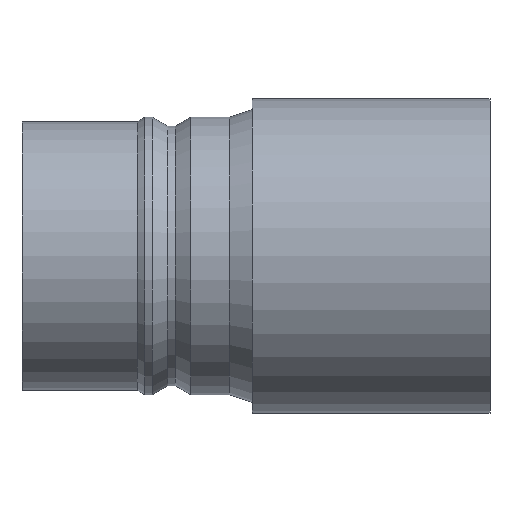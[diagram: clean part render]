
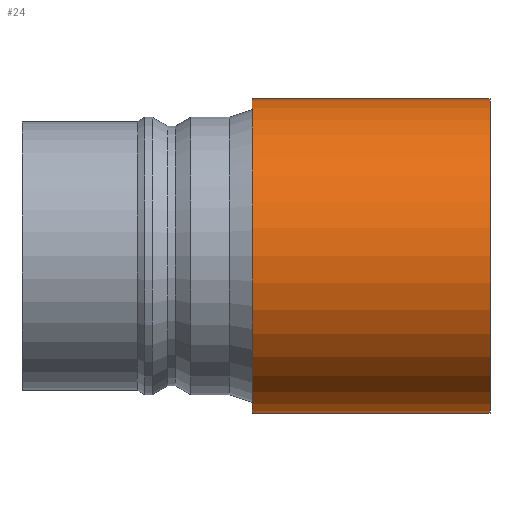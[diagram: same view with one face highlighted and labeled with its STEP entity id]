
A CAD part, top view. The second image highlights one B-rep face of the part: STEP entity #24.
In plain terms, the highlighted cylindrical face has radius 20.5 mm (diameter 41 mm), a partial arc.
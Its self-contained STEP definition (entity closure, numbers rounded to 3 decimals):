
#2 = VERTEX_POINT ( 'NONE', #110 ) ;
#24 = ADVANCED_FACE ( 'NONE', ( #123 ), #369, .T. ) ;
#66 = DIRECTION ( 'NONE',  ( 0., -1., 0. ) ) ;
#101 = DIRECTION ( 'NONE',  ( -1., 0., 0. ) ) ;
#110 = CARTESIAN_POINT ( 'NONE',  ( 61., -20.5, 0. ) ) ;
#111 = AXIS2_PLACEMENT_3D ( 'NONE', #576, #562, #560 ) ;
#113 = CARTESIAN_POINT ( 'NONE',  ( 61., 20.5, 0. ) ) ;
#123 = FACE_OUTER_BOUND ( 'NONE', #602, .T. ) ;
#124 = LINE ( 'NONE', #467, #486 ) ;
#138 = VERTEX_POINT ( 'NONE', #228 ) ;
#174 = EDGE_CURVE ( 'NONE', #471, #570, #451, .T. ) ;
#177 = CIRCLE ( 'NONE', #111, 20.5 ) ;
#183 = LINE ( 'NONE', #113, #638 ) ;
#202 = CARTESIAN_POINT ( 'NONE',  ( 30., -20.5, 0. ) ) ;
#228 = CARTESIAN_POINT ( 'NONE',  ( 61., 20.5, 0. ) ) ;
#251 = ORIENTED_EDGE ( 'NONE', *, *, #174, .T. ) ;
#275 = ORIENTED_EDGE ( 'NONE', *, *, #318, .F. ) ;
#318 = EDGE_CURVE ( 'NONE', #138, #2, #177, .T. ) ;
#336 = AXIS2_PLACEMENT_3D ( 'NONE', #582, #572, #556 ) ;
#350 = ORIENTED_EDGE ( 'NONE', *, *, #629, .T. ) ;
#369 = CYLINDRICAL_SURFACE ( 'NONE', #441, 20.5 ) ;
#432 = CARTESIAN_POINT ( 'NONE',  ( 30., 20.5, 0. ) ) ;
#441 = AXIS2_PLACEMENT_3D ( 'NONE', #493, #452, #66 ) ;
#444 = DIRECTION ( 'NONE',  ( -1., 0., 0. ) ) ;
#451 = CIRCLE ( 'NONE', #336, 20.5 ) ;
#452 = DIRECTION ( 'NONE',  ( -1., 0., 0. ) ) ;
#461 = EDGE_CURVE ( 'NONE', #2, #570, #124, .T. ) ;
#467 = CARTESIAN_POINT ( 'NONE',  ( 61., -20.5, 0. ) ) ;
#471 = VERTEX_POINT ( 'NONE', #432 ) ;
#486 = VECTOR ( 'NONE', #444, 1000. ) ;
#493 = CARTESIAN_POINT ( 'NONE',  ( 61., 0., 0. ) ) ;
#556 = DIRECTION ( 'NONE',  ( 0., 1., 0. ) ) ;
#560 = DIRECTION ( 'NONE',  ( 0., 1., 0. ) ) ;
#562 = DIRECTION ( 'NONE',  ( 1., 0., 0. ) ) ;
#570 = VERTEX_POINT ( 'NONE', #202 ) ;
#572 = DIRECTION ( 'NONE',  ( 1., 0., 0. ) ) ;
#576 = CARTESIAN_POINT ( 'NONE',  ( 61., 0., 0. ) ) ;
#581 = ORIENTED_EDGE ( 'NONE', *, *, #461, .F. ) ;
#582 = CARTESIAN_POINT ( 'NONE',  ( 30., 0., 0. ) ) ;
#602 = EDGE_LOOP ( 'NONE', ( #275, #350, #251, #581 ) ) ;
#629 = EDGE_CURVE ( 'NONE', #138, #471, #183, .T. ) ;
#638 = VECTOR ( 'NONE', #101, 1000. ) ;
